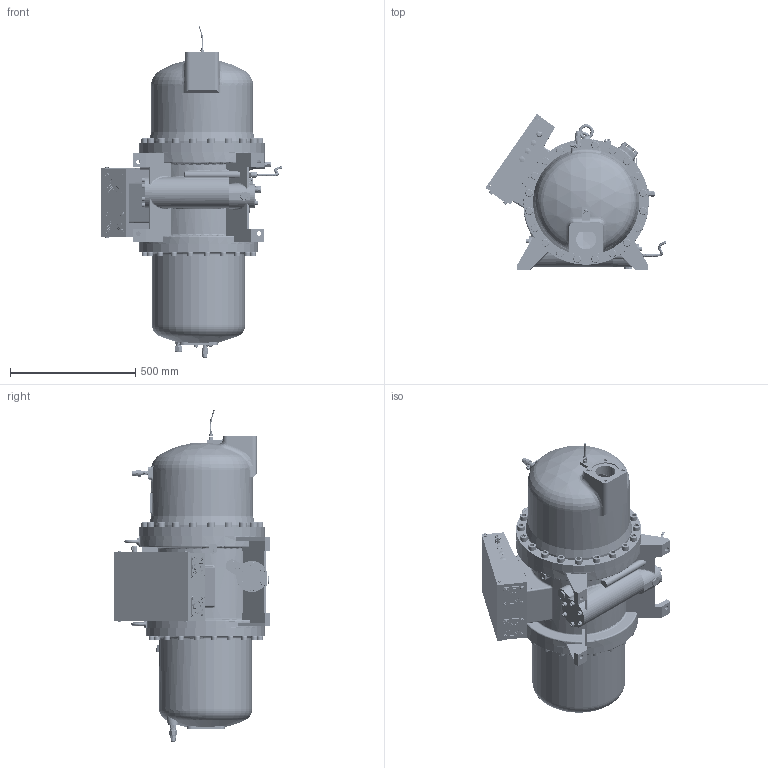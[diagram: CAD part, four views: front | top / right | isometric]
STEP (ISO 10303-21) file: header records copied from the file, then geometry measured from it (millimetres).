
FILE_DESCRIPTION (( 'STEP AP203' ), '1' );
FILE_NAME ('RC2-300BF outline.STEP', '2014-12-26T05:57:29', ( 'jameswang' ), ( '' ), 'SwSTEP 2.0', 'SolidWorks 2013', '' );
FILE_SCHEMA (( 'CONFIG_CONTROL_DESIGN' ));
Length unit declared in the file: centimetre
Products named in the file (1): RC2-300BF outline
Bounding box: 721.48 x 622.75 x 1322.94 mm (x, y, z)
Surface area: 3986460.3 mm2 (no closed solid volume)
Topology: 0 solids, 272 shells, 2678 faces, 10414 edges, 7858 vertices
Faces by surface type: plane 1291, cylinder 818, torus 320, bspline 125, cone 104, sphere 20
Entity records: 142542 total; most frequent: CARTESIAN_POINT 55856, DIRECTION 18586, ORIENTED_EDGE 15384, EDGE_CURVE 10391, VERTEX_POINT 7848, AXIS2_PLACEMENT_3D 6974, LINE 4638, VECTOR 4638
